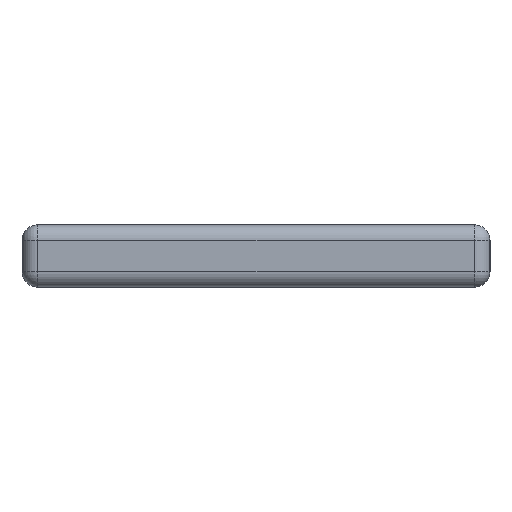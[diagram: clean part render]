
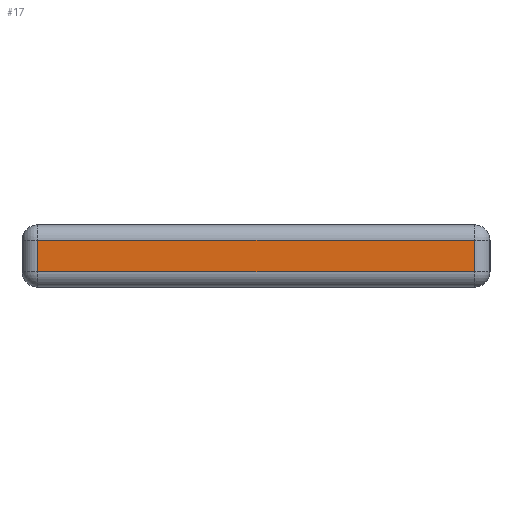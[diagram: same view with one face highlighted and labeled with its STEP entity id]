
A CAD part, left-side view. The second image highlights one B-rep face of the part: STEP entity #17.
In plain terms, the highlighted planar face has unit normal (-1, 0, 0).
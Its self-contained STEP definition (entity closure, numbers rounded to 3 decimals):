
#17 = ADVANCED_FACE('',(#18),#32,.F.);
#18 = FACE_BOUND('',#19,.F.);
#19 = EDGE_LOOP('',(#20,#55,#83,#111));
#20 = ORIENTED_EDGE('',*,*,#21,.F.);
#21 = EDGE_CURVE('',#22,#24,#26,.T.);
#22 = VERTEX_POINT('',#23);
#23 = CARTESIAN_POINT('',(-31.,-11.2,0.8));
#24 = VERTEX_POINT('',#25);
#25 = CARTESIAN_POINT('',(-31.,-11.2,2.4));
#26 = SURFACE_CURVE('',#27,(#31,#43),.PCURVE_S1.);
#27 = LINE('',#28,#29);
#28 = CARTESIAN_POINT('',(-31.,-11.2,0.));
#29 = VECTOR('',#30,1.);
#30 = DIRECTION('',(0.,0.,1.));
#31 = PCURVE('',#32,#37);
#32 = PLANE('',#33);
#33 = AXIS2_PLACEMENT_3D('',#34,#35,#36);
#34 = CARTESIAN_POINT('',(-31.,-12.,0.));
#35 = DIRECTION('',(1.,0.,0.));
#36 = DIRECTION('',(0.,0.,1.));
#37 = DEFINITIONAL_REPRESENTATION('',(#38),#42);
#38 = LINE('',#39,#40);
#39 = CARTESIAN_POINT('',(0.,-0.8));
#40 = VECTOR('',#41,1.);
#41 = DIRECTION('',(1.,0.));
#42 = ( GEOMETRIC_REPRESENTATION_CONTEXT(2) 
PARAMETRIC_REPRESENTATION_CONTEXT() REPRESENTATION_CONTEXT('2D SPACE',''
  ) );
#43 = PCURVE('',#44,#49);
#44 = CYLINDRICAL_SURFACE('',#45,0.8);
#45 = AXIS2_PLACEMENT_3D('',#46,#47,#48);
#46 = CARTESIAN_POINT('',(-30.2,-11.2,0.));
#47 = DIRECTION('',(0.,0.,1.));
#48 = DIRECTION('',(-1.,-0.,0.));
#49 = DEFINITIONAL_REPRESENTATION('',(#50),#54);
#50 = LINE('',#51,#52);
#51 = CARTESIAN_POINT('',(0.,0.));
#52 = VECTOR('',#53,1.);
#53 = DIRECTION('',(0.,1.));
#54 = ( GEOMETRIC_REPRESENTATION_CONTEXT(2) 
PARAMETRIC_REPRESENTATION_CONTEXT() REPRESENTATION_CONTEXT('2D SPACE',''
  ) );
#55 = ORIENTED_EDGE('',*,*,#56,.T.);
#56 = EDGE_CURVE('',#22,#57,#59,.T.);
#57 = VERTEX_POINT('',#58);
#58 = CARTESIAN_POINT('',(-31.,11.2,0.8));
#59 = SURFACE_CURVE('',#60,(#64,#71),.PCURVE_S1.);
#60 = LINE('',#61,#62);
#61 = CARTESIAN_POINT('',(-31.,-12.,0.8));
#62 = VECTOR('',#63,1.);
#63 = DIRECTION('',(0.,1.,0.));
#64 = PCURVE('',#32,#65);
#65 = DEFINITIONAL_REPRESENTATION('',(#66),#70);
#66 = LINE('',#67,#68);
#67 = CARTESIAN_POINT('',(0.8,0.));
#68 = VECTOR('',#69,1.);
#69 = DIRECTION('',(0.,-1.));
#70 = ( GEOMETRIC_REPRESENTATION_CONTEXT(2) 
PARAMETRIC_REPRESENTATION_CONTEXT() REPRESENTATION_CONTEXT('2D SPACE',''
  ) );
#71 = PCURVE('',#72,#77);
#72 = CYLINDRICAL_SURFACE('',#73,0.8);
#73 = AXIS2_PLACEMENT_3D('',#74,#75,#76);
#74 = CARTESIAN_POINT('',(-30.2,-12.,0.8));
#75 = DIRECTION('',(0.,1.,0.));
#76 = DIRECTION('',(-1.,0.,0.));
#77 = DEFINITIONAL_REPRESENTATION('',(#78),#82);
#78 = LINE('',#79,#80);
#79 = CARTESIAN_POINT('',(-0.,0.));
#80 = VECTOR('',#81,1.);
#81 = DIRECTION('',(-0.,1.));
#82 = ( GEOMETRIC_REPRESENTATION_CONTEXT(2) 
PARAMETRIC_REPRESENTATION_CONTEXT() REPRESENTATION_CONTEXT('2D SPACE',''
  ) );
#83 = ORIENTED_EDGE('',*,*,#84,.T.);
#84 = EDGE_CURVE('',#57,#85,#87,.T.);
#85 = VERTEX_POINT('',#86);
#86 = CARTESIAN_POINT('',(-31.,11.2,2.4));
#87 = SURFACE_CURVE('',#88,(#92,#99),.PCURVE_S1.);
#88 = LINE('',#89,#90);
#89 = CARTESIAN_POINT('',(-31.,11.2,0.));
#90 = VECTOR('',#91,1.);
#91 = DIRECTION('',(0.,0.,1.));
#92 = PCURVE('',#32,#93);
#93 = DEFINITIONAL_REPRESENTATION('',(#94),#98);
#94 = LINE('',#95,#96);
#95 = CARTESIAN_POINT('',(0.,-23.2));
#96 = VECTOR('',#97,1.);
#97 = DIRECTION('',(1.,0.));
#98 = ( GEOMETRIC_REPRESENTATION_CONTEXT(2) 
PARAMETRIC_REPRESENTATION_CONTEXT() REPRESENTATION_CONTEXT('2D SPACE',''
  ) );
#99 = PCURVE('',#100,#105);
#100 = CYLINDRICAL_SURFACE('',#101,0.8);
#101 = AXIS2_PLACEMENT_3D('',#102,#103,#104);
#102 = CARTESIAN_POINT('',(-30.2,11.2,0.));
#103 = DIRECTION('',(0.,0.,1.));
#104 = DIRECTION('',(-1.,-0.,0.));
#105 = DEFINITIONAL_REPRESENTATION('',(#106),#110);
#106 = LINE('',#107,#108);
#107 = CARTESIAN_POINT('',(-0.,0.));
#108 = VECTOR('',#109,1.);
#109 = DIRECTION('',(-0.,1.));
#110 = ( GEOMETRIC_REPRESENTATION_CONTEXT(2) 
PARAMETRIC_REPRESENTATION_CONTEXT() REPRESENTATION_CONTEXT('2D SPACE',''
  ) );
#111 = ORIENTED_EDGE('',*,*,#112,.F.);
#112 = EDGE_CURVE('',#24,#85,#113,.T.);
#113 = SURFACE_CURVE('',#114,(#118,#125),.PCURVE_S1.);
#114 = LINE('',#115,#116);
#115 = CARTESIAN_POINT('',(-31.,-12.,2.4));
#116 = VECTOR('',#117,1.);
#117 = DIRECTION('',(0.,1.,0.));
#118 = PCURVE('',#32,#119);
#119 = DEFINITIONAL_REPRESENTATION('',(#120),#124);
#120 = LINE('',#121,#122);
#121 = CARTESIAN_POINT('',(2.4,0.));
#122 = VECTOR('',#123,1.);
#123 = DIRECTION('',(0.,-1.));
#124 = ( GEOMETRIC_REPRESENTATION_CONTEXT(2) 
PARAMETRIC_REPRESENTATION_CONTEXT() REPRESENTATION_CONTEXT('2D SPACE',''
  ) );
#125 = PCURVE('',#126,#131);
#126 = CYLINDRICAL_SURFACE('',#127,0.8);
#127 = AXIS2_PLACEMENT_3D('',#128,#129,#130);
#128 = CARTESIAN_POINT('',(-30.2,-12.,2.4));
#129 = DIRECTION('',(0.,1.,0.));
#130 = DIRECTION('',(-1.,0.,0.));
#131 = DEFINITIONAL_REPRESENTATION('',(#132),#136);
#132 = LINE('',#133,#134);
#133 = CARTESIAN_POINT('',(0.,0.));
#134 = VECTOR('',#135,1.);
#135 = DIRECTION('',(0.,1.));
#136 = ( GEOMETRIC_REPRESENTATION_CONTEXT(2) 
PARAMETRIC_REPRESENTATION_CONTEXT() REPRESENTATION_CONTEXT('2D SPACE',''
  ) );
